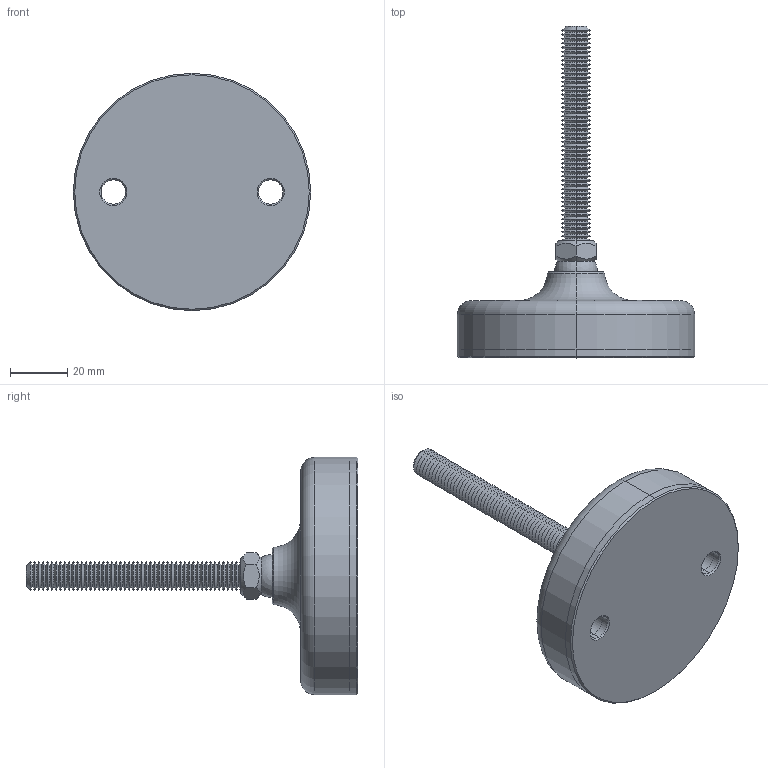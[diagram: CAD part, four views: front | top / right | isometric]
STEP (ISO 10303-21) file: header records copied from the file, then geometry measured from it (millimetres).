
FILE_DESCRIPTION (( 'STEP AP203' ), '1' );
FILE_NAME ('34724.W1001.step', '2019-11-28T22:07:30', ( '' ), ( '' ), 'SwSTEP 2.0', 'SolidWorks 2017', '' );
FILE_SCHEMA (( 'CONFIG_CONTROL_DESIGN' ));
Length unit declared in the file: millimetre
Products named in the file (4): Part2_34724.W1001; Part3_34724.W1001; 34724.W1001; Part1_34724.W1001
Assembly tree (3 placements, depth 2):
  34724.W1001
    Part1_34724.W1001
    Part2_34724.W1001
    Part3_34724.W1001
Bounding box: 83 x 116 x 83 mm (x, y, z)
Volume: 115578.1 mm3; surface area: 32422.3 mm2
Topology: 3 solids, 3 shells, 248 faces, 511 edges, 269 vertices
Faces by surface type: cone 214, plane 14, cylinder 12, sphere 4, torus 4
Entity records: 6858 total; most frequent: DIRECTION 1256, CARTESIAN_POINT 1164, ORIENTED_EDGE 1004, AXIS2_PLACEMENT_3D 512, EDGE_CURVE 502, VERTEX_POINT 264, EDGE_LOOP 260, CIRCLE 258
